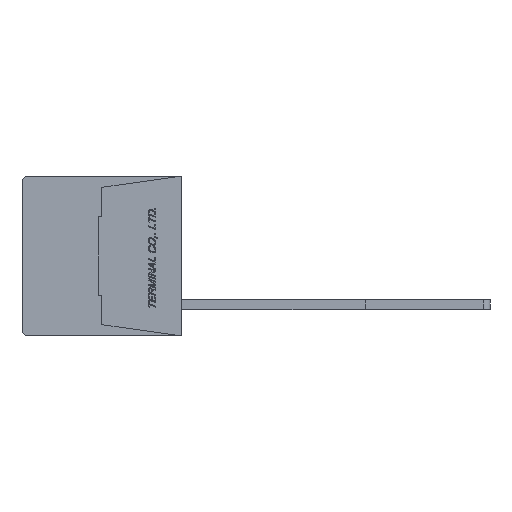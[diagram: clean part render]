
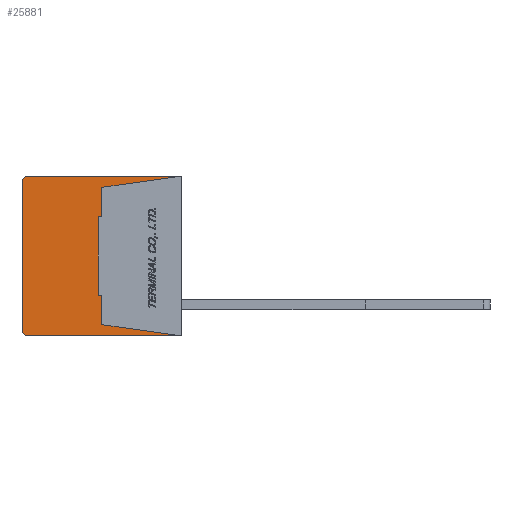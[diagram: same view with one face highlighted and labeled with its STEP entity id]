
A CAD part, left-side view. The second image highlights one B-rep face of the part: STEP entity #25881.
In plain terms, the highlighted planar face has unit normal (-1, 0, 0).
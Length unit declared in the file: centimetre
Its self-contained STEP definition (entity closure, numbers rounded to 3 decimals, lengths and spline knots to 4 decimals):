
#1274=CIRCLE('',#44279,0.05);
#1275=CIRCLE('',#44280,0.05);
#1525=VERTEX_POINT('',#33395);
#1526=VERTEX_POINT('',#33397);
#1532=VERTEX_POINT('',#33411);
#1534=VERTEX_POINT('',#33417);
#1537=VERTEX_POINT('',#33425);
#1539=VERTEX_POINT('',#33431);
#1545=VERTEX_POINT('',#33445);
#1547=VERTEX_POINT('',#33451);
#1950=VERTEX_POINT('',#35092);
#1951=VERTEX_POINT('',#35094);
#1952=VERTEX_POINT('',#35096);
#1953=VERTEX_POINT('',#35098);
#4180=VECTOR('',#28576,1.);
#4187=VECTOR('',#28584,1.);
#4190=VECTOR('',#28588,1.);
#4193=VECTOR('',#28594,1.);
#4196=VECTOR('',#28598,1.);
#4203=VECTOR('',#28606,1.);
#4206=VECTOR('',#28610,1.);
#4671=VECTOR('',#29234,1.);
#4672=VECTOR('',#29237,1.);
#4673=VECTOR('',#29240,1.);
#7260=LINE('',#33396,#4180);
#7267=LINE('',#33410,#4187);
#7270=LINE('',#33416,#4190);
#7273=LINE('',#33424,#4193);
#7276=LINE('',#33430,#4196);
#7283=LINE('',#33444,#4203);
#7286=LINE('',#33450,#4206);
#7751=LINE('',#35091,#4671);
#7752=LINE('',#35095,#4672);
#7753=LINE('',#35099,#4673);
#10395=EDGE_CURVE('',#1526,#1525,#7260,.T.);
#10402=EDGE_CURVE('',#1532,#1526,#7267,.T.);
#10405=EDGE_CURVE('',#1534,#1532,#7270,.T.);
#10409=EDGE_CURVE('',#1537,#1534,#7273,.T.);
#10412=EDGE_CURVE('',#1539,#1537,#7276,.T.);
#10419=EDGE_CURVE('',#1545,#1539,#7283,.T.);
#10422=EDGE_CURVE('',#1547,#1545,#7286,.T.);
#10999=EDGE_CURVE('',#1525,#1950,#7751,.T.);
#11000=EDGE_CURVE('',#1951,#1950,#1274,.T.);
#11001=EDGE_CURVE('',#1951,#1952,#7752,.T.);
#11002=EDGE_CURVE('',#1953,#1952,#1275,.T.);
#11003=EDGE_CURVE('',#1953,#1547,#7753,.T.);
#15666=ORIENTED_EDGE('',*,*,#10395,.T.);
#15667=ORIENTED_EDGE('',*,*,#10999,.T.);
#15668=ORIENTED_EDGE('',*,*,#11000,.F.);
#15669=ORIENTED_EDGE('',*,*,#11001,.T.);
#15670=ORIENTED_EDGE('',*,*,#11002,.F.);
#15671=ORIENTED_EDGE('',*,*,#11003,.T.);
#15672=ORIENTED_EDGE('',*,*,#10422,.T.);
#15673=ORIENTED_EDGE('',*,*,#10419,.T.);
#15674=ORIENTED_EDGE('',*,*,#10412,.T.);
#15675=ORIENTED_EDGE('',*,*,#10409,.T.);
#15676=ORIENTED_EDGE('',*,*,#10405,.T.);
#15677=ORIENTED_EDGE('',*,*,#10402,.T.);
#22475=EDGE_LOOP('',(#15666,#15667,#15668,#15669,#15670,#15671,#15672,#15673,
#15674,#15675,#15676,#15677));
#24205=FACE_BOUND('',#22475,.T.);
#25881=ADVANCED_FACE('',(#24205),#27361,.F.);
#27361=PLANE('',#44278);
#28576=DIRECTION('',(0.,-0.99,0.139));
#28584=DIRECTION('',(0.,0.,1.));
#28588=DIRECTION('',(0.,-1.,0.));
#28594=DIRECTION('',(0.,0.,1.));
#28598=DIRECTION('',(0.,1.,0.));
#28606=DIRECTION('',(0.,0.,1.));
#28610=DIRECTION('',(0.,0.99,0.139));
#29233=DIRECTION('',(1.,0.,0.));
#29234=DIRECTION('',(0.,1.,0.));
#29235=DIRECTION('',(1.,0.,0.));
#29236=DIRECTION('',(0.,0.,-0.05));
#29237=DIRECTION('',(0.,0.,-1.));
#29238=DIRECTION('',(1.,0.,0.));
#29239=DIRECTION('',(0.,0.,-0.05));
#29240=DIRECTION('',(0.,-1.,0.));
#33395=CARTESIAN_POINT('',(-1.,0.,0.64));
#33396=CARTESIAN_POINT('',(-1.,0.64,0.55));
#33397=CARTESIAN_POINT('',(-1.,0.64,0.55));
#33410=CARTESIAN_POINT('',(-1.,0.64,0.315));
#33411=CARTESIAN_POINT('',(-1.,0.64,0.315));
#33416=CARTESIAN_POINT('',(-1.,0.67,0.315));
#33417=CARTESIAN_POINT('',(-1.,0.67,0.315));
#33424=CARTESIAN_POINT('',(-1.,0.67,-0.315));
#33425=CARTESIAN_POINT('',(-1.,0.67,-0.315));
#33430=CARTESIAN_POINT('',(-1.,0.64,-0.315));
#33431=CARTESIAN_POINT('',(-1.,0.64,-0.315));
#33444=CARTESIAN_POINT('',(-1.,0.64,-0.55));
#33445=CARTESIAN_POINT('',(-1.,0.64,-0.55));
#33450=CARTESIAN_POINT('',(-1.,0.,-0.64));
#33451=CARTESIAN_POINT('',(-1.,0.,-0.64));
#35090=CARTESIAN_POINT('',(-1.,0.6345,0.));
#35091=CARTESIAN_POINT('',(-1.,0.,0.64));
#35092=CARTESIAN_POINT('',(-1.,1.23,0.64));
#35093=CARTESIAN_POINT('',(-1.,1.23,0.59));
#35094=CARTESIAN_POINT('',(-1.,1.28,0.59));
#35095=CARTESIAN_POINT('',(-1.,1.28,0.59));
#35096=CARTESIAN_POINT('',(-1.,1.28,-0.59));
#35097=CARTESIAN_POINT('',(-1.,1.23,-0.59));
#35098=CARTESIAN_POINT('',(-1.,1.23,-0.64));
#35099=CARTESIAN_POINT('',(-1.,1.23,-0.64));
#44278=AXIS2_PLACEMENT_3D('',#35090,#29233,$);
#44279=AXIS2_PLACEMENT_3D('',#35093,#29235,#29236);
#44280=AXIS2_PLACEMENT_3D('',#35097,#29238,#29239);
